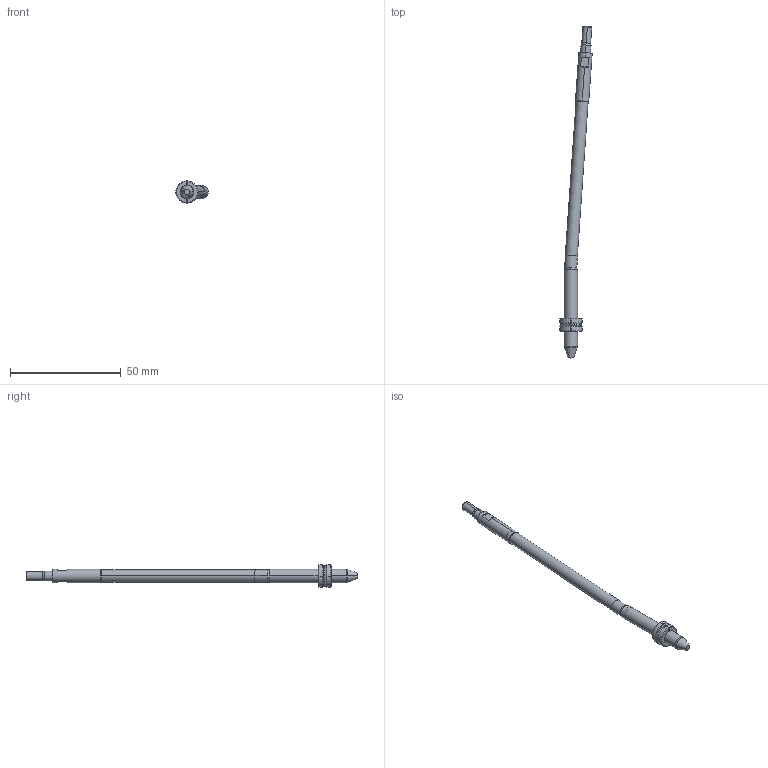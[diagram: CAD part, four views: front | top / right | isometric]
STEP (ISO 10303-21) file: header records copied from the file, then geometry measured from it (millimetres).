
FILE_DESCRIPTION (( 'STEP AP214' ), '1' );
FILE_NAME ('WP060060-EJE 4°.STEP', '2021-03-19T15:16:16', ( '' ), ( '' ), 'SwSTEP 2.0', 'SolidWorks 2019', '' );
FILE_SCHEMA (( 'AUTOMOTIVE_DESIGN' ));
Length unit declared in the file: millimetre
Products named in the file (6): WEB-007-9WP060060-F_WP060060-F-ON 4ø; WEB-002-9WP060030-2; WEB-001-9WP060030-1; WP060060-EJE 4°; WEB-008-JUNTA-JT7X1X9; WEB-006-9WP060030-6
Assembly tree (5 placements, depth 2):
  WP060060-EJE 4°
    WEB-001-9WP060030-1
    WEB-007-9WP060060-F_WP060060-F-ON 4ø
    WEB-002-9WP060030-2
    WEB-006-9WP060030-6
    WEB-008-JUNTA-JT7X1X9
Bounding box: 14.57 x 149.66 x 9.99 mm (x, y, z)
Volume: 3873.8 mm3; surface area: 3434.2 mm2
Topology: 6 solids, 6 shells, 112 faces, 262 edges, 164 vertices
Faces by surface type: cylinder 36, cone 28, plane 28, torus 20
Entity records: 3723 total; most frequent: CARTESIAN_POINT 714, DIRECTION 598, ORIENTED_EDGE 524, EDGE_CURVE 262, AXIS2_PLACEMENT_3D 256, VERTEX_POINT 164, CIRCLE 136, EDGE_LOOP 116
